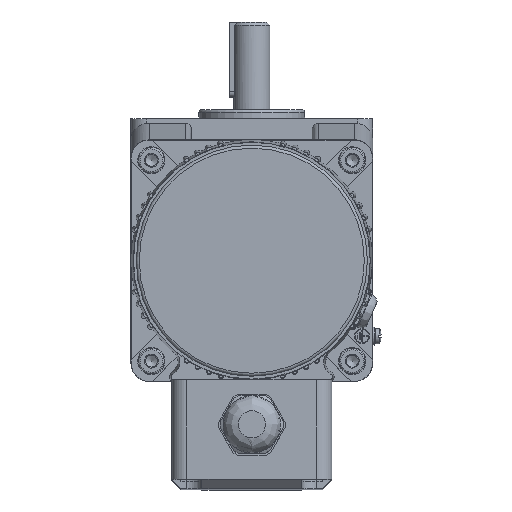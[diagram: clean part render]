
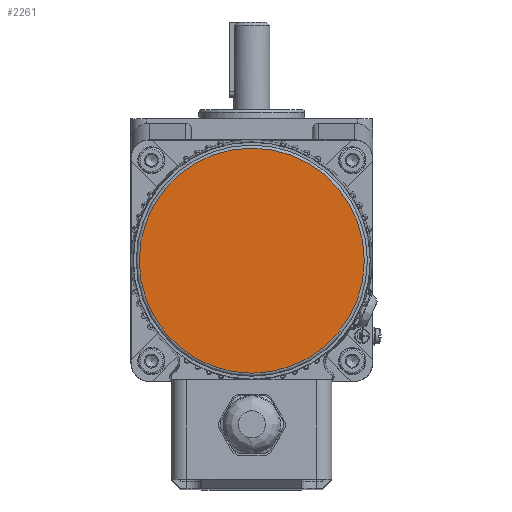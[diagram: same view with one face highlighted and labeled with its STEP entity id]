
A CAD part, left-side view. The second image highlights one B-rep face of the part: STEP entity #2261.
In plain terms, the highlighted planar face has unit normal (-1, 0, 0).
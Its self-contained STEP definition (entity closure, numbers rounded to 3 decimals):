
#793=PLANE('',#16368);
#1397=FACE_OUTER_BOUND('',#4033,.T.);
#2261=ADVANCED_FACE('',(#1397),#793,.F.);
#4033=EDGE_LOOP('',(#7564));
#7564=ORIENTED_EDGE('',*,*,#12073,.T.);
#10285=VERTEX_POINT('',#25214);
#12073=EDGE_CURVE('',#10285,#10285,#15205,.T.);
#15205=CIRCLE('',#16367,37.25);
#16367=AXIS2_PLACEMENT_3D('',#25213,#19475,#19476);
#16368=AXIS2_PLACEMENT_3D('',#25215,#19477,#19478);
#19475=DIRECTION('',(-1.,0.,0.));
#19476=DIRECTION('',(0.,0.,-1.));
#19477=DIRECTION('',(1.,0.,0.));
#19478=DIRECTION('',(0.,0.,-1.));
#25213=CARTESIAN_POINT('',(-86.,40.,40.));
#25214=CARTESIAN_POINT('',(-86.,40.,2.75));
#25215=CARTESIAN_POINT('',(-86.,40.,78.25));
